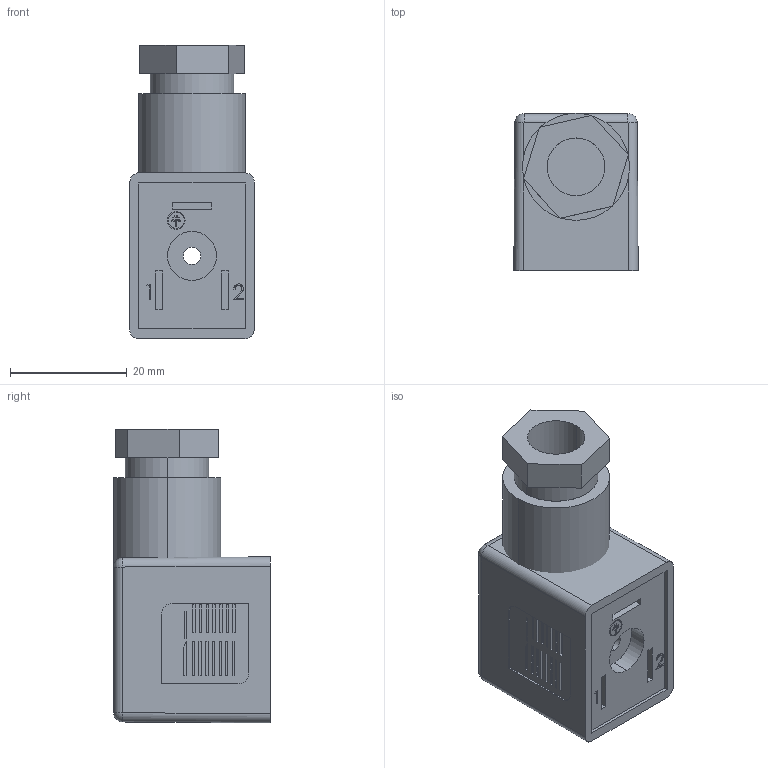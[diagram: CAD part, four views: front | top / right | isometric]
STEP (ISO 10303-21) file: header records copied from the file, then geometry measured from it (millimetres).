
FILE_DESCRIPTION (( 'STEP AP214' ), '1' );
FILE_NAME ('VDG-029-00.STEP', '2012-08-02T20:16:06', ( 'IT' ), ( 'Hewlett-Packard Company' ), 'SwSTEP 2.0', 'SolidWorks 2012', '' );
FILE_SCHEMA (( 'AUTOMOTIVE_DESIGN' ));
Length unit declared in the file: inch
Products named in the file (1): VDG-029-00
Bounding box: 21.34 x 26.92 x 50.43 mm (x, y, z)
Volume: 17553.3 mm3; surface area: 7623.7 mm2
Topology: 2 solids, 2 shells, 288 faces, 690 edges, 452 vertices
Faces by surface type: plane 244, cylinder 28, bspline 10, sphere 4, torus 2
Entity records: 12363 total; most frequent: CARTESIAN_POINT 1873, ORIENTED_EDGE 1372, DIRECTION 1290, EDGE_CURVE 686, VECTOR 608, LINE 608, VERTEX_POINT 452, EDGE_LOOP 342
